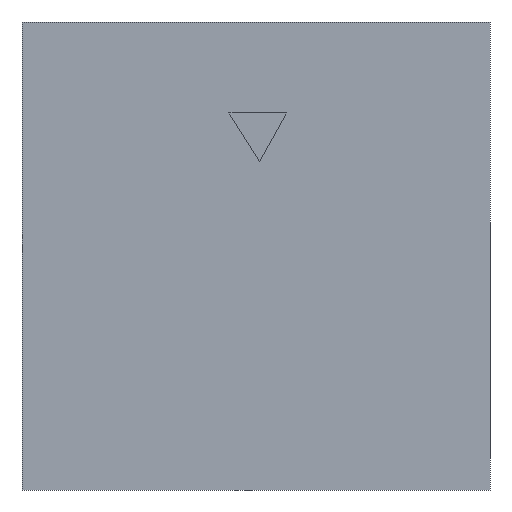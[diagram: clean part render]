
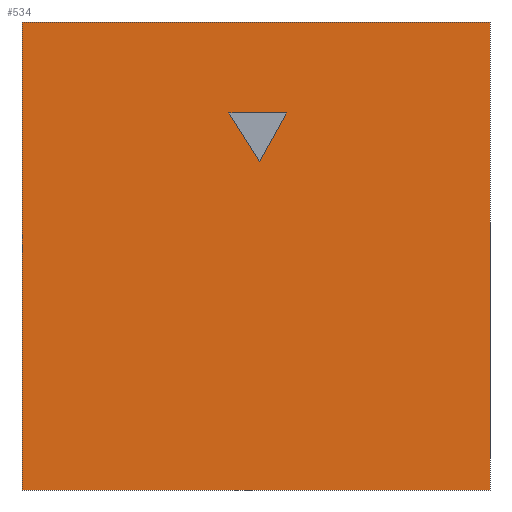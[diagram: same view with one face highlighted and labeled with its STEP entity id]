
A CAD part, front view. The second image highlights one B-rep face of the part: STEP entity #534.
In plain terms, the highlighted planar face has unit normal (0, -1, 0).
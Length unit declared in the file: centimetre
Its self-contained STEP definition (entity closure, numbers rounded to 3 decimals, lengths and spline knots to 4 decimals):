
#12 = EDGE_CURVE ( 'NONE', #684, #194, #39, .T. ) ;
#37 = ORIENTED_EDGE ( 'NONE', *, *, #387, .F. ) ;
#39 = LINE ( 'NONE', #292, #92 ) ;
#83 = CARTESIAN_POINT ( 'NONE',  ( 0., 0., 1000. ) ) ;
#92 = VECTOR ( 'NONE', #509, 100. ) ;
#106 = CARTESIAN_POINT ( 'NONE',  ( 442.2655, 0., 805.5604 ) ) ;
#111 = CARTESIAN_POINT ( 'NONE',  ( 0., 0., 0. ) ) ;
#117 = DIRECTION ( 'NONE',  ( 1., 0., 0. ) ) ;
#126 = CARTESIAN_POINT ( 'NONE',  ( 1000., 0., 0. ) ) ;
#127 = FACE_OUTER_BOUND ( 'NONE', #583, .T. ) ;
#134 = VERTEX_POINT ( 'NONE', #295 ) ;
#167 = EDGE_CURVE ( 'NONE', #520, #303, #606, .T. ) ;
#181 = DIRECTION ( 'NONE',  ( 0., 0., 1. ) ) ;
#191 = DIRECTION ( 'NONE',  ( 0., 0., -1. ) ) ;
#194 = VERTEX_POINT ( 'NONE', #126 ) ;
#201 = CARTESIAN_POINT ( 'NONE',  ( 1000., 0., 1000. ) ) ;
#212 = VECTOR ( 'NONE', #191, 100. ) ;
#215 = ORIENTED_EDGE ( 'NONE', *, *, #12, .F. ) ;
#240 = LINE ( 'NONE', #390, #632 ) ;
#248 = AXIS2_PLACEMENT_3D ( 'NONE', #83, #620, #181 ) ;
#275 = VECTOR ( 'NONE', #530, 100. ) ;
#278 = CARTESIAN_POINT ( 'NONE',  ( 0., 0., 1000. ) ) ;
#282 = ORIENTED_EDGE ( 'NONE', *, *, #337, .F. ) ;
#292 = CARTESIAN_POINT ( 'NONE',  ( 1000., 0., 1000. ) ) ;
#295 = CARTESIAN_POINT ( 'NONE',  ( 507.7275, 0., 701.6507 ) ) ;
#303 = VERTEX_POINT ( 'NONE', #111 ) ;
#319 = DIRECTION ( 'NONE',  ( 0.533, 0., -0.846 ) ) ;
#321 = VECTOR ( 'NONE', #117, 100. ) ;
#329 = DIRECTION ( 'NONE',  ( 0.483, 0., 0.876 ) ) ;
#332 = LINE ( 'NONE', #484, #343 ) ;
#335 = PLANE ( 'NONE',  #248 ) ;
#337 = EDGE_CURVE ( 'NONE', #369, #134, #376, .T. ) ;
#343 = VECTOR ( 'NONE', #329, 100. ) ;
#350 = FACE_BOUND ( 'NONE', #669, .T. ) ;
#369 = VERTEX_POINT ( 'NONE', #106 ) ;
#371 = LINE ( 'NONE', #643, #321 ) ;
#376 = LINE ( 'NONE', #385, #472 ) ;
#382 = LINE ( 'NONE', #645, #275 ) ;
#385 = CARTESIAN_POINT ( 'NONE',  ( 442.2655, 0., 805.5604 ) ) ;
#387 = EDGE_CURVE ( 'NONE', #527, #369, #382, .T. ) ;
#390 = CARTESIAN_POINT ( 'NONE',  ( 0., 0., 1000. ) ) ;
#431 = EDGE_CURVE ( 'NONE', #303, #194, #371, .T. ) ;
#439 = EDGE_CURVE ( 'NONE', #134, #527, #332, .T. ) ;
#441 = ORIENTED_EDGE ( 'NONE', *, *, #431, .T. ) ;
#469 = ORIENTED_EDGE ( 'NONE', *, *, #439, .F. ) ;
#472 = VECTOR ( 'NONE', #319, 100. ) ;
#484 = CARTESIAN_POINT ( 'NONE',  ( 507.7275, 0., 701.6507 ) ) ;
#502 = ORIENTED_EDGE ( 'NONE', *, *, #167, .T. ) ;
#509 = DIRECTION ( 'NONE',  ( 0., 0., -1. ) ) ;
#520 = VERTEX_POINT ( 'NONE', #278 ) ;
#527 = VERTEX_POINT ( 'NONE', #541 ) ;
#530 = DIRECTION ( 'NONE',  ( -1., 0., 0. ) ) ;
#534 = ADVANCED_FACE ( 'NONE', ( #350, #127 ), #335, .F. ) ;
#541 = CARTESIAN_POINT ( 'NONE',  ( 564.9849, 0., 805.5604 ) ) ;
#543 = EDGE_CURVE ( 'NONE', #520, #684, #240, .T. ) ;
#583 = EDGE_LOOP ( 'NONE', ( #441, #215, #633, #502 ) ) ;
#606 = LINE ( 'NONE', #660, #212 ) ;
#620 = DIRECTION ( 'NONE',  ( 0., 1., 0. ) ) ;
#632 = VECTOR ( 'NONE', #661, 100. ) ;
#633 = ORIENTED_EDGE ( 'NONE', *, *, #543, .F. ) ;
#643 = CARTESIAN_POINT ( 'NONE',  ( 0., 0., 0. ) ) ;
#645 = CARTESIAN_POINT ( 'NONE',  ( 564.9849, 0., 805.5604 ) ) ;
#660 = CARTESIAN_POINT ( 'NONE',  ( 0., 0., 1000. ) ) ;
#661 = DIRECTION ( 'NONE',  ( 1., 0., 0. ) ) ;
#669 = EDGE_LOOP ( 'NONE', ( #282, #37, #469 ) ) ;
#684 = VERTEX_POINT ( 'NONE', #201 ) ;
